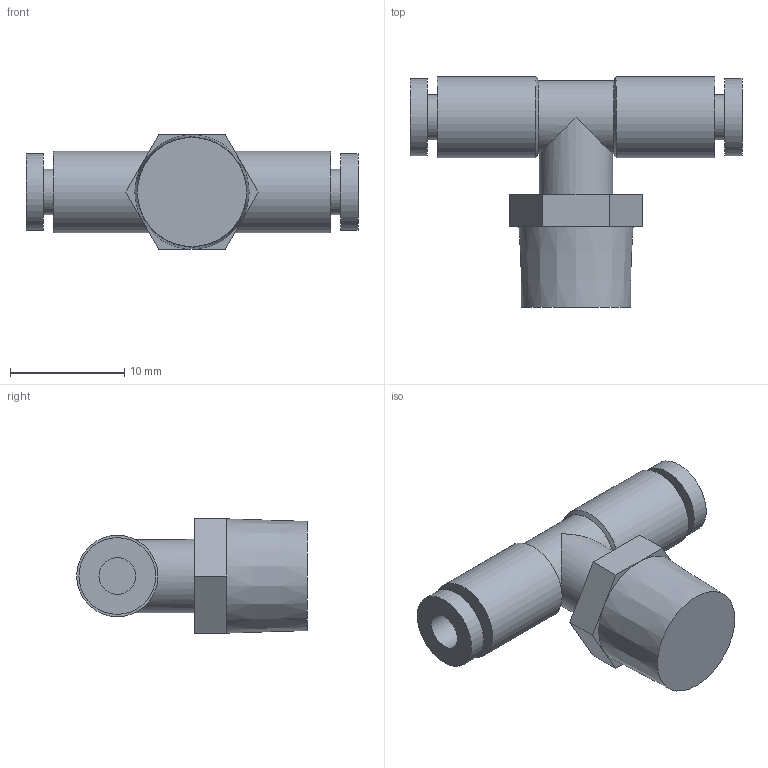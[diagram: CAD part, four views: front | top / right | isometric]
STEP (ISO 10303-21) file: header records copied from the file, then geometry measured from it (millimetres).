
FILE_DESCRIPTION(/* description */ ('STEP AP214'),/* implementation_level */ '2;1');
FILE_NAME(/* name */ 'KQ2T23-01AS',/* time_stamp */ '2024-10-24T14:01:13+02:00',/* author */ ('License CC BY-ND 4.0'),/* organization */ ('CADENAS'),/* preprocessor_version */ 'ST-DEVELOPER v19.3',/* originating_system */ 'PARTsolutions',/* authorisation */ ' ');
FILE_SCHEMA (('AUTOMOTIVE_DESIGN {1 0 10303 214 3 1 1}'));
Length unit declared in the file: millimetre
Products named in the file (1): KQ2T23-01AS
Bounding box: 29 x 20.15 x 10 mm (x, y, z)
Volume: 1721.1 mm3; surface area: 1558.8 mm2
Topology: 1 solids, 1 shells, 30 faces, 57 edges, 37 vertices
Faces by surface type: plane 17, cylinder 10, cone 3
Full cylindrical faces by diameter (mm): 3.2 x2, 3.95 x2, 6.4 x2, 6.7 x2, 7.1 x2
Entity records: 702 total; most frequent: DIRECTION 126, CARTESIAN_POINT 107, ORIENTED_EDGE 82, AXIS2_PLACEMENT_3D 54, EDGE_LOOP 52, FACE_BOUND 52, EDGE_CURVE 41, VERTEX_POINT 35
